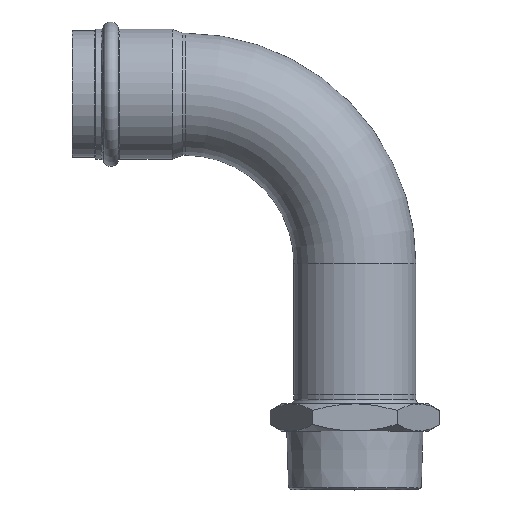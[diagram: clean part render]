
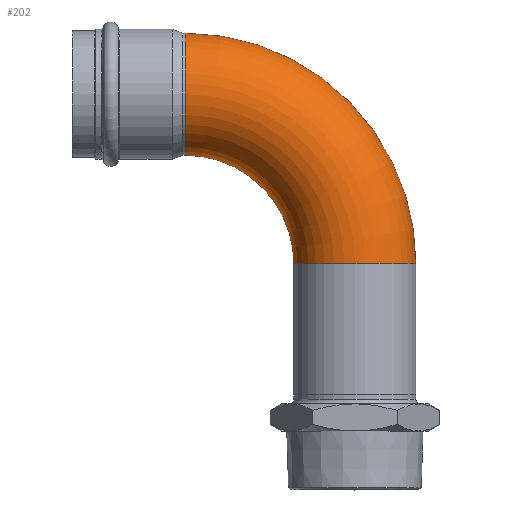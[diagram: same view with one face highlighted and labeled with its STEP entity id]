
A CAD part, top view. The second image highlights one B-rep face of the part: STEP entity #202.
In plain terms, the highlighted toroidal (fillet/blend) face has major radius 75 mm and minor radius 27 mm.
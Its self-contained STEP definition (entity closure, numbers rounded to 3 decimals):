
#171=CARTESIAN_POINT('',(75.,0.,-27.));
#172=VERTEX_POINT('',#171);
#173=CARTESIAN_POINT('',(75.,0.,0.0));
#174=DIRECTION('',(0.0,1.0,0.0));
#175=DIRECTION('',(0.0,0.0,1.0));
#176=AXIS2_PLACEMENT_3D('',#173,#174,#175);
#177=CIRCLE('',#176,27.);
#178=EDGE_CURVE('',#172,#172,#177,.T.);
#183=CARTESIAN_POINT('',(0.,0.,0.0));
#184=DIRECTION('',(0.0,0.0,-1.0));
#185=DIRECTION('',(-1.0,0.0,0.0));
#186=AXIS2_PLACEMENT_3D('',#183,#184,#185);
#187=TOROIDAL_SURFACE('',#186,75.0,27.);
#188=ORIENTED_EDGE('',*,*,#178,.T.);
#189=EDGE_LOOP('',(#188));
#190=FACE_OUTER_BOUND('',#189,.T.);
#191=CARTESIAN_POINT('',(0.,75.,-27.));
#192=VERTEX_POINT('',#191);
#193=CARTESIAN_POINT('',(0.,75.,0.0));
#194=DIRECTION('',(-1.0,0.0,0.0));
#195=DIRECTION('',(0.0,0.0,1.0));
#196=AXIS2_PLACEMENT_3D('',#193,#194,#195);
#197=CIRCLE('',#196,27.);
#198=EDGE_CURVE('',#192,#192,#197,.T.);
#199=ORIENTED_EDGE('',*,*,#198,.F.);
#200=EDGE_LOOP('',(#199));
#201=FACE_BOUND('',#200,.T.);
#202=ADVANCED_FACE('',(#190,#201),#187,.T.);
